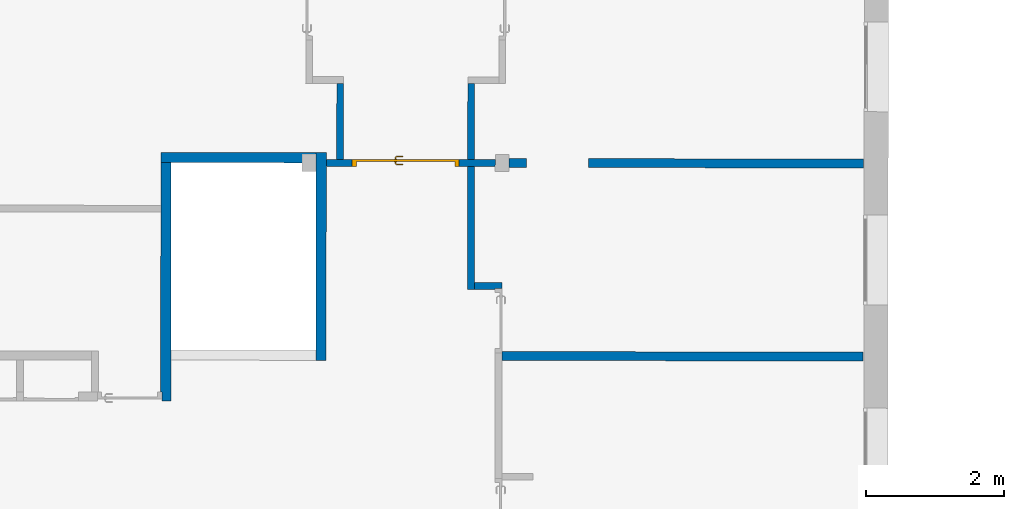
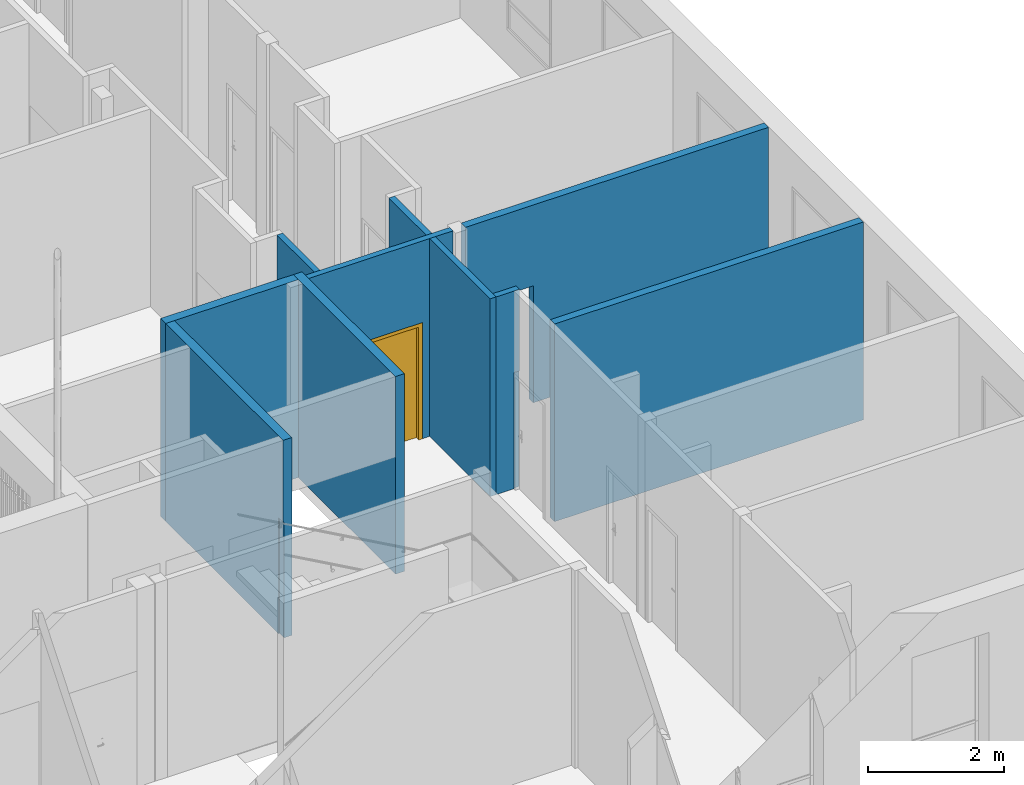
# One storey, part 76 of 101: 9 walls, 1 door, 6 openings.
"""IFC2X3 building model written with IfcOpenShell, lengths in metres."""

import ifcopenshell
import ifcopenshell.guid

model = None  # the IFC model being written
_history = None  # IfcOwnerHistory: only IFC2X3 demands one
_inside = {}  # id of a spatial element -> (the spatial element, [elements in it])
_under = {}  # id of a project, library or spatial element -> (it, [spatial elements below it])
_declared = {}  # id of a project -> (the project, [libraries it declares])
_typed = {}  # id of a type object -> (the type object, [elements of that type])
_made_of = {}  # id of a material, layer set ... -> (it, [elements and type objects made of it])


def new_model(schema):
    """Start an empty IFC model of exactly this schema.

    Asked for "IFC4X3", IfcOpenShell would pick the latest addendum, in which some entities
    have other attributes; the version numbers below select the first issue.
    IFC2X3 requires an IfcOwnerHistory on every rooted entity: one is made here for all.
    """
    global model, _history
    if schema == "IFC4X3":
        model = ifcopenshell.file(schema_version=(4, 3, 0, 0))
    else:
        model = ifcopenshell.file(schema=schema)
    _inside.clear()
    _under.clear()
    _declared.clear()
    _typed.clear()
    _made_of.clear()
    _history = None
    if model.schema == "IFC2X3":
        org = make("IfcOrganization", Name="unknown")
        user = make(
            "IfcPersonAndOrganization",
            ThePerson=make("IfcPerson", FamilyName="unknown"),
            TheOrganization=org,
        )
        app = make(
            "IfcApplication",
            ApplicationDeveloper=org,
            Version="unknown",
            ApplicationFullName="unknown",
            ApplicationIdentifier="unknown",
        )
        _history = make(
            "IfcOwnerHistory",
            OwningUser=user,
            OwningApplication=app,
            ChangeAction="ADDED",
            CreationDate=0,
        )
    return model


def make(cls, **values):
    """One entity of the class cls with the attributes given. An attribute that is None is left unset."""
    return model.create_entity(
        cls, **{name: value for name, value in values.items() if value is not None}
    )


def entity(cls, *values):
    """Any entity or typed value of the class cls, its attributes in the order of the schema. None: left unset."""
    e = model.create_entity(cls)
    for i, value in enumerate(values):
        if value is not None:
            e[i] = value
    return e


def rooted(cls, **values):
    """An entity with a GlobalId (a new one), such as an element, a storey or a relation."""
    return make(cls, GlobalId=ifcopenshell.guid.new(), OwnerHistory=_history, **values)


def si_unit(unit_type, name, prefix=None):
    """IfcSIUnit, for example si_unit("LENGTHUNIT", "METRE", prefix="MILLI")."""
    return make("IfcSIUnit", UnitType=unit_type, Prefix=prefix, Name=name)


def converted_unit(unit_type, name, factor, base, dimensions=None, offset=None):
    """IfcConversionBasedUnit, such as the inch: factor (a typed value) times the base unit."""
    return make(
        "IfcConversionBasedUnit"
        if offset is None
        else "IfcConversionBasedUnitWithOffset",
        ConversionOffset=offset,
        Dimensions=None
        if dimensions is None
        else entity("IfcDimensionalExponents", *dimensions),
        UnitType=unit_type,
        Name=name,
        ConversionFactor=make(
            "IfcMeasureWithUnit", ValueComponent=factor, UnitComponent=base
        ),
    )


def derived_unit(unit_type, elements):
    """IfcDerivedUnit: a product of units, each with its exponent."""
    return make(
        "IfcDerivedUnit",
        Elements=[
            make("IfcDerivedUnitElement", Unit=unit, Exponent=power)
            for unit, power in elements
        ],
        UnitType=unit_type,
    )


def assignment(units):
    """IfcUnitAssignment: the units of a project."""
    return None if units is None else make("IfcUnitAssignment", Units=units)


def point(xyz):
    """IfcCartesianPoint."""
    return None if xyz is None else make("IfcCartesianPoint", Coordinates=xyz)


def direction(xyz):
    """IfcDirection."""
    return None if xyz is None else make("IfcDirection", DirectionRatios=xyz)


def frame(location, z_axis=None, x_axis=None):
    """IfcAxis2Placement3D, a coordinate frame: its origin and axes. An axis left out is left unset."""
    return make(
        "IfcAxis2Placement3D",
        Location=point(location),
        Axis=direction(z_axis),
        RefDirection=direction(x_axis),
    )


def frame_2d(location, x_axis=None):
    """IfcAxis2Placement2D, a coordinate frame in the plane: its origin and x axis."""
    return make(
        "IfcAxis2Placement2D", Location=point(location), RefDirection=direction(x_axis)
    )


def origin():
    """The frame at (0, 0, 0) with its axes left unset."""
    return frame((0.0, 0.0, 0.0))


def place(relative_to, where):
    """IfcLocalPlacement: puts the frame where relative to a parent placement (None: the world)."""
    return make(
        "IfcLocalPlacement", PlacementRelTo=relative_to, RelativePlacement=where
    )


def context(
    kind, dimensions, precision=None, world=None, true_north=None, identifier=None
):
    """IfcGeometricRepresentationContext, for example the 3D "Model" context."""
    return make(
        "IfcGeometricRepresentationContext",
        ContextIdentifier=identifier,
        ContextType=kind,
        CoordinateSpaceDimension=dimensions,
        Precision=precision,
        WorldCoordinateSystem=world,
        TrueNorth=true_north,
    )


def subcontext(parent, identifier, kind, view, scale=None):
    """IfcGeometricRepresentationSubContext, for example "Body" below "Model"."""
    return make(
        "IfcGeometricRepresentationSubContext",
        ContextIdentifier=identifier,
        ContextType=kind,
        ParentContext=parent,
        TargetScale=scale,
        TargetView=view,
    )


def project(units=None, contexts=None):
    """IfcProject with its units and contexts."""
    return rooted(
        "IfcProject",
        Name="project",
        RepresentationContexts=contexts,
        UnitsInContext=assignment(units),
    )


def spatial(cls, under=None, at=None, **own):
    """A site, building, storey or space (cls), placed at a placement, below another one or the project."""
    s = rooted(cls, ObjectPlacement=at, **own)
    if under is not None:
        _under.setdefault(under.id(), (under, []))[1].append(s)
    return s


def profile(cls, at=None, kind="AREA", **sizes):
    """A parametric profile (cls). Its sizes go by their IFC names, for example OverallWidth=200.0."""
    return make(cls, ProfileType=kind, Position=at, **sizes)


def rectangle(**sizes):
    """IfcRectangleProfileDef."""
    return profile("IfcRectangleProfileDef", **sizes)


def extrude(swept, where, along, depth):
    """IfcExtrudedAreaSolid: the profile swept, set in the frame where, extruded along a direction by depth."""
    return make(
        "IfcExtrudedAreaSolid",
        SweptArea=swept,
        Position=where,
        ExtrudedDirection=direction(along),
        Depth=depth,
    )


def faces_of(points, faces, orient=None, outer=None):
    """IfcFace entities. A face is a list of loops; a loop is a list of indices into points, from 0.

    orient and outer hold one flag for each loop. By default every Orientation is true, the
    first loop of a face is its IfcFaceOuterBound and the others are IfcFaceBound.
    """
    made = []
    for i, loops in enumerate(faces):
        bounds = []
        for j, loop in enumerate(loops):
            is_outer = j == 0 if outer is None else outer[i][j]
            bounds.append(
                make(
                    "IfcFaceOuterBound" if is_outer else "IfcFaceBound",
                    Bound=make("IfcPolyLoop", Polygon=[points[k] for k in loop]),
                    Orientation=True if orient is None else orient[i][j],
                )
            )
        made.append(make("IfcFace", Bounds=bounds))
    return made


def faceted_brep(points, faces, orient=None, outer=None, voids=None):
    """IfcFacetedBrep: a solid bounded by flat faces; with voids (closed shells), ...WithVoids."""
    shared = [point(p) for p in points]
    hull = make("IfcClosedShell", CfsFaces=faces_of(shared, faces, orient, outer))
    if voids is None:
        return make("IfcFacetedBrep", Outer=hull)
    return make(
        "IfcFacetedBrepWithVoids",
        Outer=hull,
        Voids=[
            make(cls, CfsFaces=faces_of(shared, fs, o, b)) for cls, fs, o, b in voids
        ],
    )


def shape(context_of_items, identifier, shape_type, items):
    """IfcShapeRepresentation: the items that make up one representation, for example the "Body"."""
    return make(
        "IfcShapeRepresentation",
        ContextOfItems=context_of_items,
        RepresentationIdentifier=identifier,
        RepresentationType=shape_type,
        Items=items,
    )


def source(mapping_origin, context_of_items, identifier, shape_type, items):
    """IfcRepresentationMap: a shape defined once, which mapped items show again and again."""
    return make(
        "IfcRepresentationMap",
        MappingOrigin=mapping_origin,
        MappedRepresentation=shape(context_of_items, identifier, shape_type, items),
    )


def transform(
    local_origin,
    x_axis=None,
    y_axis=None,
    z_axis=None,
    scale=None,
    scale2=None,
    scale3=None,
    uniform=True,
):
    """IfcCartesianTransformationOperator3D, or its non-uniform kind. x_axis, y_axis, z_axis: its Axis1, 2, 3."""
    if uniform:
        return make(
            "IfcCartesianTransformationOperator3D",
            Axis1=direction(x_axis),
            Axis2=direction(y_axis),
            LocalOrigin=point(local_origin),
            Scale=scale,
            Axis3=direction(z_axis),
        )
    return make(
        "IfcCartesianTransformationOperator3DnonUniform",
        Axis1=direction(x_axis),
        Axis2=direction(y_axis),
        LocalOrigin=point(local_origin),
        Scale=scale,
        Axis3=direction(z_axis),
        Scale2=scale2,
        Scale3=scale3,
    )


def mapped(mapping_source, mapping_target):
    """IfcMappedItem: shows the shape of a source again, moved by a transform."""
    return make(
        "IfcMappedItem", MappingSource=mapping_source, MappingTarget=mapping_target
    )


def material(Name=None, Category=None):
    """IfcMaterial."""
    return make("IfcMaterial", Name=Name, Category=Category)


def material_list(materials):
    """IfcMaterialList."""
    return make("IfcMaterialList", Materials=materials)


def layer(
    of_material, thickness, ventilated=None, Name=None, Category=None, Priority=None
):
    """IfcMaterialLayer: one layer of a wall or slab, of a material (None: an air gap)."""
    return make(
        "IfcMaterialLayer",
        Material=of_material,
        LayerThickness=thickness,
        IsVentilated=ventilated,
        Name=Name,
        Category=Category,
        Priority=Priority,
    )


def layer_set(layers, Name=None):
    """IfcMaterialLayerSet."""
    return make("IfcMaterialLayerSet", MaterialLayers=layers, LayerSetName=Name)


def layer_usage(for_layer_set, set_direction, sense, offset, extent=None):
    """IfcMaterialLayerSetUsage: how a layer set lies in its element."""
    return make(
        "IfcMaterialLayerSetUsage",
        ForLayerSet=for_layer_set,
        LayerSetDirection=set_direction,
        DirectionSense=sense,
        OffsetFromReferenceLine=offset,
        ReferenceExtent=extent,
    )


def made_of(thing, what):
    """Note that an element or type object is made of a material, layer set ...; save() writes the relation."""
    if what is not None:
        _made_of.setdefault(what.id(), (what, []))[1].append(thing)
    return thing


def type_object(cls, material=None, **own):
    """A type object (cls), such as IfcWallType, which elements share."""
    return made_of(rooted(cls, **own), material)


def type_shapes(of_type, sources):
    """Give a type object the sources (RepresentationMaps) that its elements show as mapped items."""
    of_type.RepresentationMaps = sources


def element(
    cls,
    number,
    at=None,
    inside=None,
    cuts=None,
    type_object=None,
    material=None,
    context=None,
    identifier="Body",
    shape_type=None,
    held_by="IfcProductDefinitionShape",
    body=None,
    shapes=None,
    **own,
):
    """One element of the class cls, such as IfcWall. Its Tag is "e" and its number.

    at: its placement. inside: the storey or other place that contains it. cuts: it is an
    opening in that element (IfcRelVoidsElement). A single representation is given by context,
    identifier, shape_type and body (its items); several are given by shapes. held_by: the class
    of the entity that holds the representations. save() writes the other relations.
    """
    e = rooted(cls, Tag="e%d" % number, ObjectPlacement=at, **own)
    if body is not None:
        shapes = [shape(context, identifier, shape_type, body)]
    if shapes is not None:
        e.Representation = make(held_by, Representations=shapes)
    if inside is not None:
        _inside.setdefault(inside.id(), (inside, []))[1].append(e)
    if cuts is not None:
        rooted(
            "IfcRelVoidsElement", RelatingBuildingElement=cuts, RelatedOpeningElement=e
        )
    if type_object is not None:
        _typed.setdefault(type_object.id(), (type_object, []))[1].append(e)
    return made_of(e, material)


def fill(opening, filler):
    """IfcRelFillsElement: the door or window that sits in an opening."""
    return rooted(
        "IfcRelFillsElement",
        RelatingOpeningElement=opening,
        RelatedBuildingElement=filler,
    )


def aggregate(whole, parts):
    """IfcRelAggregates: a whole, such as a stair, and the parts it consists of."""
    return rooted("IfcRelAggregates", RelatingObject=whole, RelatedObjects=parts)


def save(model, path):
    """Write the relations noted so far, then the file.

    IfcRelAggregates (storeys below a building ...), IfcRelContainedInSpatialStructure (elements
    in a storey), IfcRelDefinesByType, IfcRelAssociatesMaterial and IfcRelDeclares: one each for
    every whole, place, type object, material and project.
    """
    for whole, parts in _under.values():
        aggregate(whole, parts)
    for where, things in _inside.values():
        rooted(
            "IfcRelContainedInSpatialStructure",
            RelatedElements=things,
            RelatingStructure=where,
        )
    for kind, things in _typed.values():
        rooted("IfcRelDefinesByType", RelatedObjects=things, RelatingType=kind)
    for what, things in _made_of.values():
        rooted("IfcRelAssociatesMaterial", RelatedObjects=things, RelatingMaterial=what)
    for by, libraries in _declared.values():
        rooted("IfcRelDeclares", RelatingContext=by, RelatedDefinitions=libraries)
    model.write(path)


model = new_model("IFC2X3")

# Units and contexts
model_context = context("Model", 3, precision=1e-05, world=origin(), true_north=direction((6.123233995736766e-17, 1.0)))
body_context = subcontext(model_context, "Body", "Model", "MODEL_VIEW")
ifc_project = project(units=[si_unit("LENGTHUNIT", "METRE"), si_unit("AREAUNIT", "SQUARE_METRE"), converted_unit("PLANEANGLEUNIT", "DEGREE", entity("IfcPlaneAngleMeasure", 0.017453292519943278), si_unit("PLANEANGLEUNIT", "RADIAN"), dimensions=[0, 0, 0, 0, 0, 0, 0]), derived_unit("THERMALTRANSMITTANCEUNIT", [(si_unit("MASSUNIT", "GRAM", prefix="KILO"), 1), (si_unit("THERMODYNAMICTEMPERATUREUNIT", "KELVIN"), -1), (si_unit("TIMEUNIT", "SECOND"), -3)])], contexts=[model_context])

# Site, building, storey
site_placement = place(None, frame((1253.6752467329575, 2072.143113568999, 91.49999999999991), z_axis=(0.0, 0.0, 1.0), x_axis=(0.7237211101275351, 0.6900925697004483, 0.0)))
site = spatial("IfcSite", under=ifc_project, at=site_placement, Name="Surface", CompositionType="ELEMENT")
building_placement = place(site_placement, origin())
building = spatial("IfcBuilding", under=site, at=building_placement, CompositionType="ELEMENT")
storey_placement = place(building_placement, origin())
storey = spatial("IfcBuildingStorey", under=building, at=storey_placement, Name="0- Rdc", CompositionType="ELEMENT", Elevation=-5.764692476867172e-13)

# Wall, opening
ifc_material_1 = material(Name="OMD_Béton blanc")
ifc_layer_1 = layer(ifc_material_1, 0.12999999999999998)
ifc_layer_set_1 = layer_set([ifc_layer_1], Name="Mur de base:MUR 13")
ifc_layer_usage_1 = layer_usage(ifc_layer_set_1, "AXIS2", "NEGATIVE", 0.06499999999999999)
wall_type_1 = type_object("IfcWallType", Name="Mur de base:MUR 13", PredefinedType="STANDARD", material=ifc_layer_set_1)
wall_1_placement = place(storey_placement, frame((187.40333392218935, -20.73444012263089, 0.0), z_axis=(0.0, 0.0, 1.0), x_axis=(-0.7228702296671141, 0.6909838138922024, 0.0)))
wall_1 = element("IfcWallStandardCase", 1, at=wall_1_placement, inside=storey, type_object=wall_type_1, material=ifc_layer_usage_1, Name="Mur de base:MUR 13", ObjectType="Mur de base:MUR 13", context=body_context, shape_type="SweptSolid", body=[
    extrude(rectangle(XDim=5.140000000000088, YDim=0.12999999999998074, at=frame_2d((2.570000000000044, 5.412337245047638e-16), x_axis=(-1.0, 0.0))), origin(), (0.0, 0.0, 1.0), 3.5499999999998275),
])
opening_1_placement = place(wall_1_placement, frame((149.79545354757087, 114.50436091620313, 0.0), z_axis=(0.0, 0.0, 1.0), x_axis=(-0.7228702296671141, -0.6909838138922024, 0.0)))
element("IfcOpeningElement", 2, at=opening_1_placement, cuts=wall_1, Name="Mur de base:MUR 13", ObjectType="Opening", context=body_context, shape_type="SweptSolid", body=[
    extrude(rectangle(XDim=2.0999999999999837, YDim=0.9000000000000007, at=frame_2d((1.1102230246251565e-16, 1.7763568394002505e-14), x_axis=(1.0, 0.0))), frame((185.29176338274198, -16.517831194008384, 1.0499999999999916), z_axis=(-0.6909838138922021, -0.7228702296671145, 0.0), x_axis=(0.0, 0.0, 1.0)), (0.0, 0.0, 1.0), 3.0480000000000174),
])

# Walls
ifc_layer_usage_2 = layer_usage(ifc_layer_set_1, "AXIS2", "NEGATIVE", 0.06499999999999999)
wall_2_placement = place(storey_placement, frame((185.46857924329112, -22.758476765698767, 0.0), z_axis=(0.0, 0.0, 1.0), x_axis=(-0.7228702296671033, 0.6909838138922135, 0.0)))
element("IfcWallStandardCase", 3, at=wall_2_placement, inside=storey, type_object=wall_type_1, material=ifc_layer_usage_2, Name="Mur de base:MUR 13", ObjectType="Mur de base:MUR 13", context=body_context, shape_type="SweptSolid", body=[
    extrude(rectangle(XDim=5.240000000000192, YDim=0.13000000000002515, at=frame_2d((2.6200000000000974, -5.967448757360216e-16), x_axis=(-1.0, 0.0))), origin(), (0.0, 0.0, 1.0), 3.5499999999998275),
])
ifc_layer_2 = layer(ifc_material_1, 0.1)
ifc_layer_set_2 = layer_set([ifc_layer_2], Name="Mur de base:MUR 10")
ifc_layer_usage_3 = layer_usage(ifc_layer_set_2, "AXIS2", "NEGATIVE", 0.05)
wall_type_2 = type_object("IfcWallType", Name="Mur de base:MUR 10", PredefinedType="STANDARD", material=ifc_layer_set_2)
wall_3_placement = place(storey_placement, frame((182.71138026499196, -14.658572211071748, 0.0), z_axis=(0.0, 0.0, 1.0), x_axis=(-0.6909838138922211, -0.7228702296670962, 0.0)))
element("IfcWallStandardCase", 4, at=wall_3_placement, inside=storey, type_object=wall_type_2, material=ifc_layer_usage_3, Name="Mur de base:MUR 10", ObjectType="Mur de base:MUR 10", context=body_context, shape_type="SweptSolid", body=[
    extrude(rectangle(XDim=1.1000000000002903, YDim=0.10000000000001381, at=frame_2d((0.5500000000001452, -1.0477729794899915e-15), x_axis=(-1.0, 0.0))), origin(), (0.0, 0.0, 1.0), 3.5499999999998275),
])
ifc_layer_usage_4 = layer_usage(ifc_layer_set_2, "AXIS2", "NEGATIVE", 0.05)
wall_4_placement = place(storey_placement, frame((184.08483370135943, -15.971441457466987, 0.0), z_axis=(0.0, 0.0, 1.0), x_axis=(-0.6909838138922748, -0.722870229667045, 0.0)))
element("IfcWallStandardCase", 5, at=wall_4_placement, inside=storey, type_object=wall_type_2, material=ifc_layer_usage_4, Name="Mur de base:MUR 10", ObjectType="Mur de base:MUR 10", context=body_context, shape_type="SweptSolid", body=[
    extrude(rectangle(XDim=2.9850000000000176, YDim=0.10000000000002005, at=frame_2d((1.4925000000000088, 1.27675647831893e-15), x_axis=(-1.0, 0.0))), origin(), (0.0, 0.0, 1.0), 3.5499999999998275),
])

# Wall, opening, door
ifc_layer_usage_5 = layer_usage(ifc_layer_set_2, "AXIS2", "NEGATIVE", 0.05)
wall_5_placement = place(storey_placement, frame((183.5432068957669, -17.044586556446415, 0.0), z_axis=(0.0, 0.0, 1.0), x_axis=(-0.722870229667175, 0.6909838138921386, 0.0)))
wall_5 = element("IfcWallStandardCase", 6, at=wall_5_placement, inside=storey, type_object=wall_type_2, material=ifc_layer_usage_5, Name="Mur de base:MUR 10", ObjectType="Mur de base:MUR 10", context=body_context, shape_type="SweptSolid", body=[
    extrude(rectangle(XDim=2.449999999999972, YDim=0.10000000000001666, at=frame_2d((1.224999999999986, -1.7937040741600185e-15), x_axis=(-1.0, 0.0))), origin(), (0.0, 0.0, 1.0), 3.5499999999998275),
])
opening_2_placement = place(wall_5_placement, frame((2.0749999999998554, 0.050000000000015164, 0.0)))
opening_2 = element("IfcOpeningElement", 7, at=opening_2_placement, cuts=wall_5, Name="OMD_Porte 2V tunnel:140x204:1", ObjectType="Opening", context=body_context, shape_type="SweptSolid", body=[
    extrude(rectangle(XDim=2.085, YDim=1.5499999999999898, at=frame_2d((1.0425, 0.7750000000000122), x_axis=(1.0, 0.0))), frame((0.0, 0.0, 0.0), z_axis=(0.0, -1.0, 0.0), x_axis=(0.0, 0.0, 1.0)), (0.0, 0.0, 1.0), 0.1),
])
ifc_material_2 = material(Name="<Unnamed>")
ifc_material_3 = material(Name="Porte - Poignée")
ifc_material_4 = material(Name="OMD_Bois")
ifc_material_list = material_list([ifc_material_2, ifc_material_3, ifc_material_4])
door_style = type_object("IfcDoorStyle", Name="OMD_Porte 2V tunnel:140x204", ConstructionType="NOTDEFINED", OperationType="NOTDEFINED", ParameterTakesPrecedence=False, Sizeable=False, material=ifc_material_list)
shared_shape = source(origin(), body_context, "Body", "Brep", [
    faceted_brep([(1.5049999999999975, 0.030000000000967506, 0.0), (1.5049999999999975, 0.0, 0.0), (0.9749999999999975, 0.0, 0.0), (0.9749999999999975, 0.030000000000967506, 0.0), (1.5049999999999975, 0.030000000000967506, 2.04), (1.5049999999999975, 0.0, 2.04), (0.9749999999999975, 0.0, 2.04), (0.9749999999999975, 0.030000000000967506, 2.04)], [[[0, 1, 2, 3]], [[4, 5, 1, 0]], [[5, 6, 2, 1]], [[6, 7, 3, 2]], [[7, 4, 0, 3]], [[4, 7, 6, 5]]]),
    faceted_brep([(0.9220252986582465, 0.035000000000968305, 1.0077804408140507), (0.9179747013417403, 0.035000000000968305, 1.007780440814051), (0.913999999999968, 0.035000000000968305, 1.00699999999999), (0.913999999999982, 0.035000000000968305, 0.9930000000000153), (0.9179747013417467, 0.035000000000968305, 0.9922195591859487), (0.9220252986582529, 0.035000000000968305, 0.9922195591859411), (0.9260000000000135, 0.035000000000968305, 0.9929999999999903), (0.9260000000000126, 0.035000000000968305, 1.006999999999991), (0.913999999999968, 0.0574852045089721, 1.00699999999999), (0.913999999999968, 0.057485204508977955, 0.9930000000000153), (0.91797470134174, 0.05913157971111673, 1.007780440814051), (0.9220252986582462, 0.06080939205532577, 1.0077804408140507), (0.9058389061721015, 0.07699578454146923, 1.0077804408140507), (0.9041610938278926, 0.07294518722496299, 1.007780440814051), (0.8207931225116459, 0.07294518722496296, 1.0077804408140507), (0.8191153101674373, 0.07699578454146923, 1.0077804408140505), (0.8114510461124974, 0.06933152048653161, 1.0077804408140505), (0.8143152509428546, 0.06646731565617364, 1.0077804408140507), (0.9260000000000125, 0.06245576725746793, 1.006999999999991), (0.9260000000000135, 0.06245576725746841, 0.9929999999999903), (0.9220252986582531, 0.060809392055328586, 0.9922195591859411), (0.9179747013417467, 0.05913157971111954, 0.9922195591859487), (0.9041610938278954, 0.07294518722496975, 0.9922195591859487), (0.9058389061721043, 0.07699578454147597, 0.9922195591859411), (0.8191153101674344, 0.07699578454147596, 0.9922195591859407), (0.8207931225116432, 0.07294518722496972, 0.9922195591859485), (0.8143152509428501, 0.06646731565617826, 0.9922195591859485), (0.8114510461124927, 0.06933152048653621, 0.9922195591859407), (0.9025147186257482, 0.06897048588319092, 1.00699999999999), (0.9025147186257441, 0.06897048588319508, 0.9930000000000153), (0.9074852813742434, 0.08097048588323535, 1.006999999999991), (0.9074852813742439, 0.08097048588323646, 0.9929999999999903), (0.8624771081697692, 0.06897048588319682, 1.0069999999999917), (0.8224394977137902, 0.06897048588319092, 1.0069999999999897), (0.8224394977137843, 0.06897048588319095, 0.9930000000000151), (0.8624771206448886, 0.06897048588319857, 0.9930000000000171), (0.862477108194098, 0.07512492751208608, 1.0078781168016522), (0.8573994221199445, 0.08097048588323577, 1.0069999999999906), (0.8174689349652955, 0.08097048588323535, 1.0069999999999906), (0.8675547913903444, 0.08097048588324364, 0.9929999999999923), (0.817468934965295, 0.08097048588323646, 0.99299999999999), (0.8624771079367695, 0.07512492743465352, 0.9921218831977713), (0.8086405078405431, 0.0721420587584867, 1.0069999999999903), (0.808640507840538, 0.07214205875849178, 0.9929999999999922), (0.8171257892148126, 0.06365677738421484, 0.9930000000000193), (0.8171257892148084, 0.06365677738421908, 1.0069999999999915)], [[[0, 1, 2, 3, 4, 5, 6, 7]], [[8, 9, 3, 2]], [[1, 10, 8, 2]], [[1, 0, 11, 12, 13, 10]], [[14, 15, 16, 17]], [[7, 18, 11, 0]], [[18, 7, 6, 19]], [[6, 5, 20, 19]], [[5, 4, 21, 22, 23, 20]], [[24, 25, 26, 27]], [[4, 3, 9, 21]], [[28, 29, 9, 8]], [[8, 10, 13, 28]], [[18, 30, 12, 11]], [[31, 30, 18, 19]], [[19, 20, 23, 31]], [[21, 9, 29, 22]], [[29, 28, 32, 33, 34, 35]], [[36, 32, 13]], [[37, 38, 15]], [[37, 12, 30]], [[36, 12, 37]], [[14, 32, 36]], [[36, 15, 14]], [[28, 13, 32]], [[32, 14, 33]], [[12, 36, 13]], [[15, 36, 37]], [[30, 31, 39, 40, 38, 37]], [[23, 41, 39]], [[24, 39, 41]], [[39, 31, 23]], [[39, 24, 40]], [[22, 35, 41]], [[41, 23, 22]], [[41, 35, 25]], [[35, 22, 29]], [[34, 25, 35]], [[24, 41, 25]], [[17, 16, 42, 43, 27, 26, 44, 45]], [[45, 44, 34, 33]], [[33, 14, 17, 45]], [[15, 38, 42, 16]], [[43, 42, 38, 40]], [[24, 27, 43, 40]], [[34, 44, 26, 25]]]),
    faceted_brep([(0.9179747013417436, -0.004999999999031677, 1.007780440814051), (0.92202529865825, -0.004999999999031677, 1.0077804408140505), (0.9260000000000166, -0.004999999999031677, 1.0069999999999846), (0.9260000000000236, -0.004999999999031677, 0.9929999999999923), (0.9220252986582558, -0.004999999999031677, 0.992219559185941), (0.9179747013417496, -0.004999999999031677, 0.9922195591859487), (0.9139999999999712, -0.004999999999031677, 0.9930000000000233), (0.9139999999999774, -0.004999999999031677, 1.006999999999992), (0.9220252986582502, -0.031004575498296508, 1.0077804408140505), (0.9260000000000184, -0.03265095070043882, 1.0069999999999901), (0.917974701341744, -0.029326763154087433, 1.007780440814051), (0.9042986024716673, -0.043002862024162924, 1.007780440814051), (0.9059764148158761, -0.047053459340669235, 1.0077804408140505), (0.8191424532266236, -0.047053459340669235, 1.0077804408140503), (0.8208202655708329, -0.043002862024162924, 1.0077804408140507), (0.8143423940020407, -0.036524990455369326, 1.0077804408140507), (0.8114781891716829, -0.03938919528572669, 1.0077804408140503), (0.9139999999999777, -0.02768038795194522, 1.006999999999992), (0.9139999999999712, -0.02768038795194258, 0.9930000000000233), (0.9179747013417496, -0.029326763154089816, 0.9922195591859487), (0.9220252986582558, -0.031004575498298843, 0.992219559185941), (0.9059764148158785, -0.04705345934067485, 0.992219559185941), (0.9042986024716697, -0.04300286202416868, 0.9922195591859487), (0.8208202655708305, -0.04300286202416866, 0.9922195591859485), (0.8191424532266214, -0.04705345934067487, 0.9922195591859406), (0.8114781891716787, -0.03938919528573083, 0.9922195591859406), (0.8143423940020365, -0.03652499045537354, 0.9922195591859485), (0.9260000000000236, -0.03265095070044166, 0.9929999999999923), (0.9076227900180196, -0.051028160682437, 1.0069999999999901), (0.9026522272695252, -0.0390281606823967, 1.006999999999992), (0.9026522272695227, -0.03902816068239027, 0.9930000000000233), (0.907622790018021, -0.051028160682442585, 0.9929999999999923), (0.8625594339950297, -0.045182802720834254, 1.0078781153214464), (0.8676923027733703, -0.051028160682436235, 1.0069999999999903), (0.8174960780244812, -0.05102816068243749, 1.00699999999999), (0.8625594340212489, -0.03902816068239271, 1.0069999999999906), (0.8224666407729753, -0.03902816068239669, 1.0069999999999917), (0.8625594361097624, -0.03902816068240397, 0.9930000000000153), (0.8224666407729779, -0.03902816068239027, 0.9930000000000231), (0.8625594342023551, -0.04518280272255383, 0.9921218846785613), (0.857426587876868, -0.051028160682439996, 0.9929999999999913), (0.8174960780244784, -0.051028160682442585, 0.9929999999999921), (0.8171529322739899, -0.03371445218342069, 0.9930000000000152), (0.8086676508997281, -0.042199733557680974, 0.9929999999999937), (0.8086676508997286, -0.042199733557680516, 1.0069999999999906), (0.8171529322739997, -0.033714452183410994, 1.0069999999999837)], [[[0, 1, 2, 3, 4, 5, 6, 7]], [[2, 1, 8, 9]], [[1, 0, 10, 11, 12, 8]], [[13, 14, 15, 16]], [[0, 7, 17, 10]], [[18, 17, 7, 6]], [[5, 19, 18, 6]], [[5, 4, 20, 21, 22, 19]], [[23, 24, 25, 26]], [[3, 27, 20, 4]], [[9, 27, 3, 2]], [[9, 8, 12, 28]], [[10, 17, 29, 11]], [[30, 29, 17, 18]], [[18, 19, 22, 30]], [[20, 27, 31, 21]], [[28, 31, 27, 9]], [[12, 32, 33]], [[13, 33, 32]], [[33, 28, 12]], [[33, 13, 34]], [[11, 35, 32]], [[32, 12, 11]], [[32, 35, 14]], [[35, 11, 29]], [[36, 14, 35]], [[13, 32, 14]], [[29, 30, 37, 38, 36, 35]], [[39, 37, 22]], [[40, 41, 24]], [[40, 21, 31]], [[39, 21, 40]], [[23, 37, 39]], [[39, 24, 23]], [[30, 22, 37]], [[37, 23, 38]], [[21, 39, 22]], [[24, 39, 40]], [[31, 28, 33, 34, 41, 40]], [[42, 26, 25, 43, 44, 16, 15, 45]], [[13, 16, 44, 34]], [[36, 45, 15, 14]], [[42, 45, 36, 38]], [[38, 23, 26, 42]], [[24, 41, 43, 25]], [[44, 43, 41, 34]]]),
    faceted_brep([(0.9199999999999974, 0.03000000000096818, 0.8646410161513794), (0.9303527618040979, 0.03000000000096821, 0.866003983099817), (0.939999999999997, 0.030000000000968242, 0.8700000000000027), (0.939999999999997, 0.030000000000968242, 1.0800000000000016), (0.9303527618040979, 0.03000000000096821, 1.0839960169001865), (0.9199999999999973, 0.03000000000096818, 1.0853589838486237), (0.9096472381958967, 0.030000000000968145, 1.0839960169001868), (0.8999999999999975, 0.030000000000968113, 1.0800000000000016), (0.8999999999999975, 0.030000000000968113, 0.8700000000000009), (0.9096472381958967, 0.030000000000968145, 0.8660039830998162), (0.9199999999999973, 0.03500000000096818, 1.0853589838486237), (0.9303527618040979, 0.035000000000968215, 1.0839960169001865), (0.939999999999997, 0.03500000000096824, 1.0800000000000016), (0.9399999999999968, 0.03500000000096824, 0.8700000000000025), (0.9303527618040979, 0.035000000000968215, 0.866003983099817), (0.9199999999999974, 0.03500000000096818, 0.8646410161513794), (0.9096472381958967, 0.035000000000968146, 0.8660039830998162), (0.8999999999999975, 0.03500000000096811, 0.8700000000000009), (0.8999999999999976, 0.03500000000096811, 1.0800000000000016), (0.9096472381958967, 0.035000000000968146, 1.0839960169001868)], [[[0, 1, 2, 3, 4, 5, 6, 7, 8, 9]], [[10, 11, 12, 13, 14, 15, 16, 17, 18, 19]], [[6, 19, 18, 7]], [[5, 10, 19, 6]], [[4, 11, 10, 5]], [[4, 3, 12, 11]], [[12, 3, 2, 13]], [[1, 14, 13, 2]], [[0, 15, 14, 1]], [[9, 16, 15, 0]], [[9, 8, 17, 16]], [[17, 8, 7, 18]]]),
    faceted_brep([(0.9199999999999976, -0.004999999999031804, 0.8646410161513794), (0.9303527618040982, -0.00499999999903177, 0.8660039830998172), (0.9399999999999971, -0.0049999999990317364, 0.8700000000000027), (0.939999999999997, -0.0049999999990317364, 1.0800000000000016), (0.9303527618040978, -0.00499999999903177, 1.0839960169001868), (0.9199999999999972, -0.004999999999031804, 1.0853589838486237), (0.9096472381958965, -0.004999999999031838, 1.0839960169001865), (0.8999999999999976, -0.004999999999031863, 1.0800000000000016), (0.8999999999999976, -0.004999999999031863, 0.8700000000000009), (0.9096472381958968, -0.004999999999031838, 0.8660039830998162), (0.939999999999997, 0.0, 1.0800000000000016), (0.9399999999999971, 0.0, 0.8700000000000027), (0.9303527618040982, 0.0, 0.8660039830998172), (0.9199999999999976, 0.0, 0.8646410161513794), (0.9096472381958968, 0.0, 0.8660039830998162), (0.8999999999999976, 0.0, 0.8700000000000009), (0.8999999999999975, 0.0, 1.0800000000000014), (0.9096472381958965, 0.0, 1.0839960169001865), (0.9199999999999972, 0.0, 1.0853589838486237), (0.9303527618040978, 0.0, 1.0839960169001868)], [[[0, 1, 2, 3, 4, 5, 6, 7, 8, 9]], [[10, 11, 12, 13, 14, 15, 16, 17, 18, 19]], [[1, 12, 11, 2]], [[0, 13, 12, 1]], [[9, 14, 13, 0]], [[9, 8, 15, 14]], [[15, 8, 7, 16]], [[6, 17, 16, 7]], [[5, 18, 17, 6]], [[4, 19, 18, 5]], [[4, 3, 10, 19]], [[10, 3, 2, 11]]]),
    faceted_brep([(0.9750000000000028, 0.030000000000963, 0.0), (0.9750000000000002, 0.0, 0.0), (0.04500000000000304, 0.0, 0.0), (0.04500000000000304, 0.0300000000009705, 0.0), (0.9750000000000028, 0.030000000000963, 2.04), (0.9750000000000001, 0.0, 2.04), (0.04500000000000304, 0.0, 2.04), (0.04500000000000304, 0.0300000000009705, 2.04)], [[[0, 1, 2, 3]], [[4, 5, 1, 0]], [[5, 6, 2, 1]], [[6, 7, 3, 2]], [[7, 4, 0, 3]], [[4, 7, 6, 5]]]),
    faceted_brep([(1.5499999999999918, 0.0, 0.0), (1.5049999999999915, 0.0, 0.0), (1.5049999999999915, 0.0300000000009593, 0.0), (1.4899999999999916, 0.030000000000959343, 0.0), (1.489999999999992, 0.10000000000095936, 0.0), (1.549999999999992, 0.10000000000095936, 0.0), (1.5499999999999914, 0.0, 2.0849999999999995), (0.0, 0.0, 2.0849999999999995), (0.0, 0.0, 0.0), (0.04499999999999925, 0.0, 0.0), (0.04499999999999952, 0.0, 2.0399999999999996), (1.5049999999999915, 0.0, 2.0399999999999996), (1.5049999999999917, 0.0300000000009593, 2.0399999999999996), (0.04499999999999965, 0.030000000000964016, 2.039999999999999), (0.04499999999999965, 0.030000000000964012, 0.0), (0.05999999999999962, 0.030000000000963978, 0.0), (0.05999999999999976, 0.03000000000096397, 2.0249999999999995), (1.4899999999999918, 0.030000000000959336, 2.0249999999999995), (1.489999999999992, 0.10000000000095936, 2.025), (0.05999999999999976, 0.10000000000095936, 2.0249999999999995), (0.05999999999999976, 0.10000000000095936, 0.0), (0.0, 0.10000000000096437, 0.0), (0.0, 0.10000000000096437, 2.0849999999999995), (1.549999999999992, 0.10000000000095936, 2.085)], [[[0, 1, 2, 3, 4, 5]], [[1, 0, 6, 7, 8, 9, 10, 11]], [[2, 1, 11, 12]], [[3, 2, 12, 13, 14, 15, 16, 17]], [[4, 3, 17, 18]], [[5, 4, 18, 19, 20, 21, 22, 23]], [[0, 5, 23, 6]], [[7, 22, 21, 8]], [[8, 21, 20, 15, 14, 9]], [[13, 10, 9, 14]], [[19, 16, 15, 20]], [[12, 11, 10, 13]], [[18, 17, 16, 19]], [[6, 23, 22, 7]]]),
])
type_shapes(door_style, [shared_shape])
door_placement = place(opening_2_placement, frame((-1.5499999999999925, -0.10000000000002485, 0.0)))
door = element("IfcDoor", 8, at=door_placement, inside=storey, type_object=door_style, material=ifc_material_list, Name="OMD_Porte 2V tunnel:140x204", ObjectType="OMD_Porte 2V tunnel:140x204", OverallHeight=2.085, OverallWidth=1.5499999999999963, context=body_context, shape_type="MappedRepresentation", body=[
    mapped(shared_shape, transform((0.0, 0.0, 0.0), scale=1.0)),
])
fill(opening_2, door)

# Wall, opening
ifc_layer_usage_6 = layer_usage(ifc_layer_set_2, "AXIS2", "NEGATIVE", 0.05)
wall_6_placement = place(storey_placement, frame((182.38208781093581, -18.40400829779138, 0.0), z_axis=(0.0, 0.0, 1.0), x_axis=(-0.722870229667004, 0.6909838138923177, 0.0)))
wall_6 = element("IfcWallStandardCase", 9, at=wall_6_placement, inside=storey, type_object=wall_type_2, material=ifc_layer_usage_6, Name="Mur de base:MUR 10", ObjectType="Mur de base:MUR 10", context=body_context, shape_type="SweptSolid", body=[
    extrude(rectangle(XDim=0.400000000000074, YDim=0.10000000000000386, at=frame_2d((0.200000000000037, -1.0304257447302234e-15), x_axis=(-1.0, 0.0))), origin(), (0.0, 0.0, 1.0), 3.5499999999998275),
])
opening_3_placement = place(wall_6_placement, frame((144.55545354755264, 112.71936091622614, 0.0)))
element("IfcOpeningElement", 10, at=opening_3_placement, cuts=wall_6, Name="Mur de base:MUR 10", ObjectType="Opening", context=body_context, shape_type="SweptSolid", body=[
    extrude(rectangle(XDim=2.0850000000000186, YDim=0.1000000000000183, at=frame_2d((7.528699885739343e-16, -1.1102230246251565e-16), x_axis=(0.0, 1.0))), frame((-144.5054535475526, -112.68686091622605, 1.0425000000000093), z_axis=(0.0, 1.0, 0.0), x_axis=(1.0, 0.0, 0.0)), (0.0, 0.0, 1.0), 0.9350000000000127),
])

# Wall
ifc_layer_3 = layer(ifc_material_1, 0.14999999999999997)
ifc_layer_set_3 = layer_set([ifc_layer_3], Name="Mur de base:MUR 15")
ifc_layer_usage_7 = layer_usage(ifc_layer_set_3, "AXIS2", "NEGATIVE", 0.07499999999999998)
wall_type_3 = type_object("IfcWallType", Name="Mur de base:MUR 15", PredefinedType="STANDARD", material=ifc_layer_set_3)
wall_7_placement = place(storey_placement, frame((180.08911006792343, -13.63909979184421, 0.0), z_axis=(0.0, 0.0, 1.0), x_axis=(0.722870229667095, -0.6909838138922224, 0.0)))
element("IfcWallStandardCase", 11, at=wall_7_placement, inside=storey, type_object=wall_type_3, material=ifc_layer_usage_7, Name="Mur de base:MUR 15", ObjectType="Mur de base:MUR 15", context=body_context, shape_type="SweptSolid", body=[
    extrude(rectangle(XDim=2.249999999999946, YDim=0.1500000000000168, at=frame_2d((1.124999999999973, -1.887379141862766e-15), x_axis=(-1.0, 0.0))), origin(), (0.0, 0.0, 1.0), 3.5499999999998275),
])

# Wall, openings
ifc_layer_usage_8 = layer_usage(ifc_layer_set_3, "AXIS2", "NEGATIVE", 0.07499999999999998)
wall_8_placement = place(storey_placement, frame((177.70069755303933, -16.246269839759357, 0.0), z_axis=(0.0, 0.0, 1.0), x_axis=(0.6909838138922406, 0.7228702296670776, 0.0)))
wall_8 = element("IfcWallStandardCase", 12, at=wall_8_placement, inside=storey, type_object=wall_type_3, material=ifc_layer_usage_8, Name="Mur de base:MUR 15", ObjectType="Mur de base:MUR 15", context=body_context, shape_type="SweptSolid", body=[
    extrude(rectangle(XDim=3.4600000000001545, YDim=0.15000000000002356, at=frame_2d((1.7300000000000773, 5.689893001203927e-16), x_axis=(-1.0, 0.0))), origin(), (0.0, 0.0, 1.0), 3.5499999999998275),
])
opening_4_placement = place(wall_8_placement, frame((-111.04436091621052, 139.68045354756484, 0.0)))
element("IfcOpeningElement", 13, at=opening_4_placement, cuts=wall_8, Name="Mur de base:MUR 15", ObjectType="Opening", context=body_context, shape_type="SweptSolid", body=[
    extrude(rectangle(XDim=2.0850000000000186, YDim=0.12999999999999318, at=frame_2d((1.9019508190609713e-14, 1.1102230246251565e-16), x_axis=(0.0, 1.0))), frame((111.10936091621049, -139.62295354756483, 1.0425000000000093), z_axis=(0.0, 1.0, 0.0), x_axis=(-1.0, 0.0, 0.0)), (0.0, 0.0, 1.0), 0.9349999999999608),
])
opening_5_placement = place(wall_8_placement, frame((-111.04436091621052, 139.68045354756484, 0.0)))
element("IfcOpeningElement", 14, at=opening_5_placement, cuts=wall_8, Name="Mur de base:MUR 15", ObjectType="Opening", context=body_context, shape_type="SweptSolid", body=[
    extrude(rectangle(XDim=2.0999999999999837, YDim=0.14999999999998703, at=frame_2d((7.042977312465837e-15, -1.1102230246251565e-16), x_axis=(0.0, 1.0))), frame((111.71436091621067, -141.8554535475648, 1.0499999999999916), z_axis=(0.0, 1.0, 0.0), x_axis=(1.0, 0.0, 0.0)), (0.0, 0.0, 1.0), 2.100000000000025),
])

# Wall, opening
ifc_layer_usage_9 = layer_usage(ifc_layer_set_3, "AXIS2", "NEGATIVE", 0.07499999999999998)
wall_9_placement = place(storey_placement, frame((181.8216071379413, -15.19142189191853, 0.0), z_axis=(0.0, 0.0, 1.0), x_axis=(-0.6909838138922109, -0.7228702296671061, 0.0)))
wall_9 = element("IfcWallStandardCase", 15, at=wall_9_placement, inside=storey, type_object=wall_type_3, material=ifc_layer_usage_9, Name="Mur de base:MUR 15", ObjectType="Mur de base:MUR 15", context=body_context, shape_type="SweptSolid", body=[
    extrude(rectangle(XDim=3.0150000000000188, YDim=0.15000000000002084, at=frame_2d((1.5075000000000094, 5.065392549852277e-16), x_axis=(-1.0, 0.0))), origin(), (0.0, 0.0, 1.0), 3.549999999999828),
])
opening_6_placement = place(wall_9_placement, frame((114.6543609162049, -141.93045354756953, 0.0)))
element("IfcOpeningElement", 16, at=opening_6_placement, cuts=wall_9, Name="Mur de base:MUR 15", ObjectType="Opening", context=body_context, shape_type="SweptSolid", body=[
    extrude(rectangle(XDim=2.099999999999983, YDim=0.14999999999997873, at=frame_2d((1.9012569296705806e-14, 0.0), x_axis=(0.0, 1.0))), frame((-111.71436091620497, 139.75545354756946, 1.0499999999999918), z_axis=(0.0, 1.0, 0.0), x_axis=(-1.0, 0.0, 0.0)), (0.0, 0.0, 1.0), 2.100000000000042),
])

save(model, "model.ifc")
